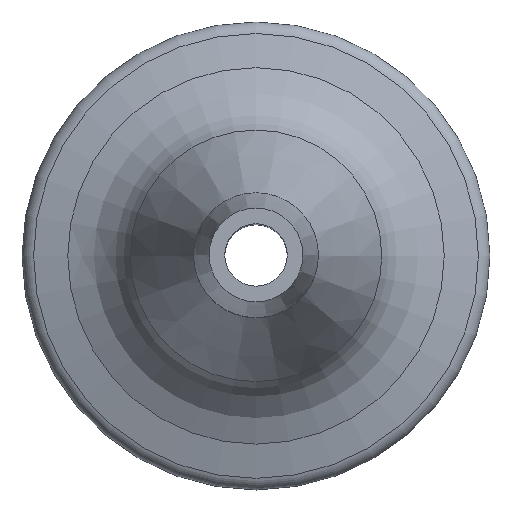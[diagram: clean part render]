
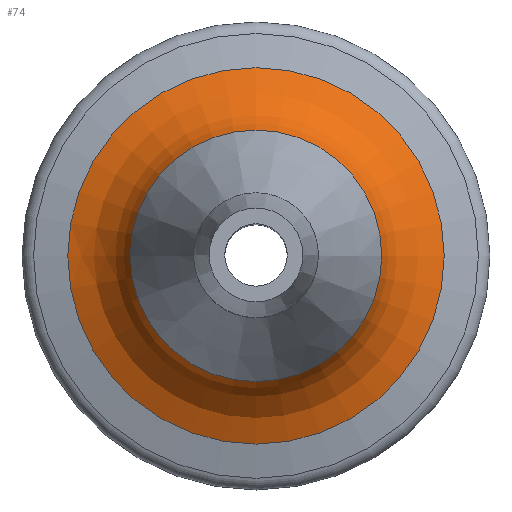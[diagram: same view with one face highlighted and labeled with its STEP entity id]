
A CAD part, top view. The second image highlights one B-rep face of the part: STEP entity #74.
In plain terms, the highlighted toroidal (fillet/blend) face has major radius 13.62 mm and minor radius 6 mm.
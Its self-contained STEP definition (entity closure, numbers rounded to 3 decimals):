
#74 = ADVANCED_FACE( '', ( #159, #160 ), #161, .F. );
#159 = FACE_OUTER_BOUND( '', #238, .T. );
#160 = FACE_OUTER_BOUND( '', #239, .T. );
#161 = TOROIDAL_SURFACE( '', #240, 13.62, 6. );
#238 = EDGE_LOOP( '', ( #343 ) );
#239 = EDGE_LOOP( '', ( #344 ) );
#240 = AXIS2_PLACEMENT_3D( '', #345, #346, #347 );
#343 = ORIENTED_EDGE( '', *, *, #387, .F. );
#344 = ORIENTED_EDGE( '', *, *, #369, .F. );
#345 = CARTESIAN_POINT( '', ( 0., 0., 9.581 ) );
#346 = DIRECTION( '', ( 0., 0., -1. ) );
#347 = DIRECTION( '', ( -1., 0., 0. ) );
#369 = EDGE_CURVE( '', #414, #414, #415, .T. );
#387 = EDGE_CURVE( '', #440, #440, #441, .F. );
#414 = VERTEX_POINT( '', #468 );
#415 = CIRCLE( '', #469, 12.067 );
#440 = VERTEX_POINT( '', #494 );
#441 = CIRCLE( '', #495, 8.065 );
#468 = CARTESIAN_POINT( '', ( -12.067, 0., 3.786 ) );
#469 = AXIS2_PLACEMENT_3D( '', #525, #526, #527 );
#494 = CARTESIAN_POINT( '', ( -8.065, 0., 7.314 ) );
#495 = AXIS2_PLACEMENT_3D( '', #549, #550, #551 );
#525 = CARTESIAN_POINT( '', ( 0., 0., 3.786 ) );
#526 = DIRECTION( '', ( 0., 0., -1. ) );
#527 = DIRECTION( '', ( -1., 0., 0. ) );
#549 = CARTESIAN_POINT( '', ( 0., 0., 7.314 ) );
#550 = DIRECTION( '', ( 0., 0., -1. ) );
#551 = DIRECTION( '', ( -1., 0., 0. ) );
